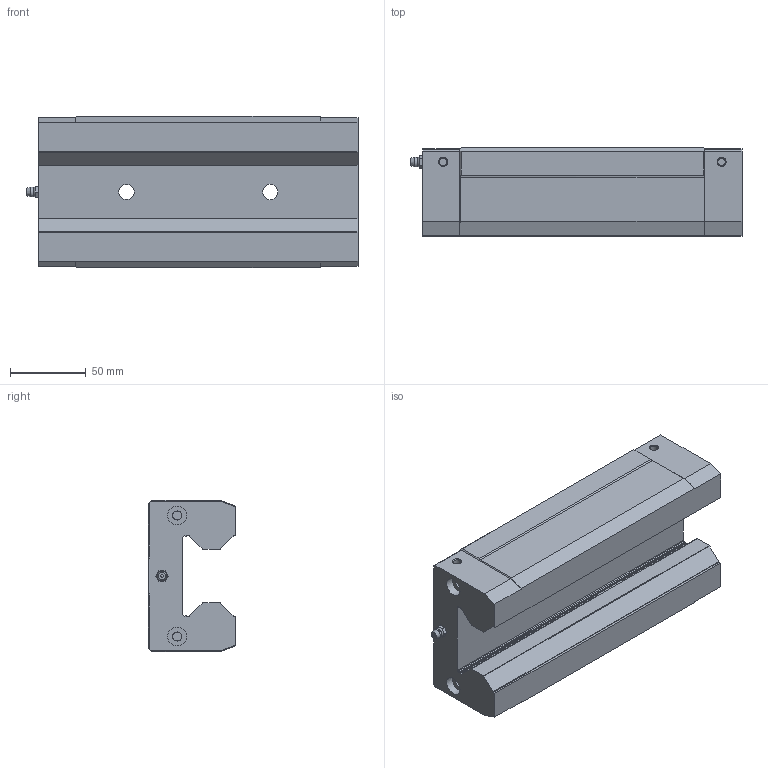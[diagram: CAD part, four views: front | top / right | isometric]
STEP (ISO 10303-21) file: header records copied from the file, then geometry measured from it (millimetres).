
FILE_DESCRIPTION(/* description */ ('STEP AP214'),/* implementation_level */ '2;1');
FILE_NAME(/* name */ 'ERG55P6LVC1N0______CAD_NO_(A-MT61)',/* time_stamp */ '2026-05-18T11:28:07+02:00',/* author */ ('License CC BY-ND 4.0'),/* organization */ ('CADENAS'),/* preprocessor_version */ 'ST-DEVELOPER v20',/* originating_system */ 'PARTsolutions',/* authorisation */ ' ');
FILE_SCHEMA (('AUTOMOTIVE_DESIGN {1 0 10303 214 3 1 1}'));
Length unit declared in the file: millimetre
Products named in the file (3): ERG55P6LVC1N0______CAD_NO_(A-MT61); ERG55LV01 Slider; hsr_ftht_A-M6F_grease_nipple_joint
Assembly tree (2 placements, depth 2):
  ERG55P6LVC1N0______CAD_NO_(A-MT61)
    ERG55LV01 Slider
    hsr_ftht_A-M6F_grease_nipple_joint
Bounding box: 219.41 x 58 x 100 mm (x, y, z)
Volume: 870513.6 mm3; surface area: 98189.8 mm2
Topology: 2 solids, 2 shells, 166 faces, 409 edges, 264 vertices
Faces by surface type: plane 95, cylinder 43, cone 25, sphere 2, torus 1
Full cylindrical faces by diameter (mm): 4.917 x6, 6 x5, 10.106 x6, 10.2 x2, 12.5 x4
Entity records: 4667 total; most frequent: CARTESIAN_POINT 851, DIRECTION 776, ORIENTED_EDGE 704, EDGE_CURVE 352, AXIS2_PLACEMENT_3D 279, VERTEX_POINT 256, FACE_BOUND 236, EDGE_LOOP 232
